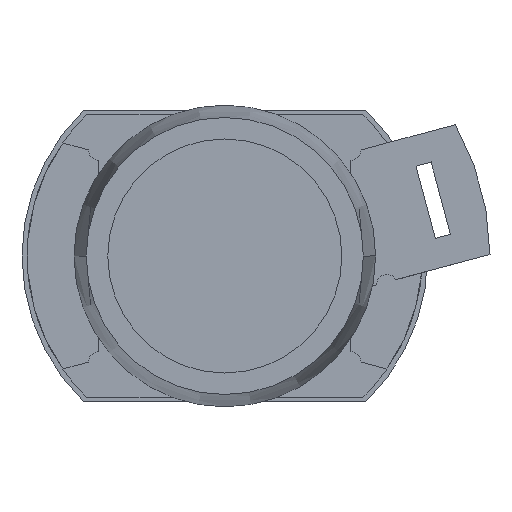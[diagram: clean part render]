
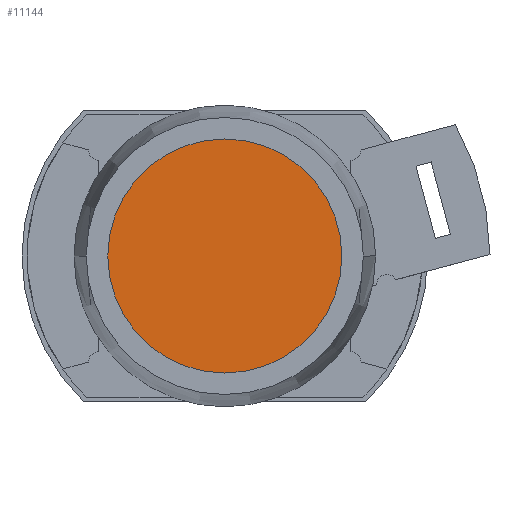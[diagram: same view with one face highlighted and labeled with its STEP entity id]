
A CAD part, left-side view. The second image highlights one B-rep face of the part: STEP entity #11144.
In plain terms, the highlighted planar face has unit normal (-1, 0, 0).
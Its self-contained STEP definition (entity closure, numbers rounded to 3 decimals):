
#835 = ORIENTED_EDGE ( 'NONE', *, *, #11881, .T. ) ;
#960 = ORIENTED_EDGE ( 'NONE', *, *, #1046, .T. ) ;
#1046 = EDGE_CURVE ( 'NONE', #11672, #8315, #3371, .T. ) ;
#3371 = CIRCLE ( 'NONE', #3372, 11.25 ) ;
#3372 = AXIS2_PLACEMENT_3D ( 'NONE', #3373, #3374, #3375 ) ;
#3373 = CARTESIAN_POINT ( 'NONE',  ( 1., 0., 0. ) ) ;
#3374 = DIRECTION ( 'NONE',  ( -1., 0., 0. ) ) ;
#3375 = DIRECTION ( 'NONE',  ( 0., 0., -1. ) ) ;
#4990 = CIRCLE ( 'NONE', #4991, 11.25 ) ;
#4991 = AXIS2_PLACEMENT_3D ( 'NONE', #4992, #4993, #4994 ) ;
#4992 = CARTESIAN_POINT ( 'NONE',  ( 1., 0., 0. ) ) ;
#4993 = DIRECTION ( 'NONE',  ( -1., 0., 0. ) ) ;
#4994 = DIRECTION ( 'NONE',  ( 0., 0., -1. ) ) ;
#7118 = EDGE_LOOP ( 'NONE', ( #835, #960 ) ) ;
#7618 = CARTESIAN_POINT ( 'NONE',  ( 1., 0., -11.25 ) ) ;
#8315 = VERTEX_POINT ( 'NONE', #7618 ) ;
#9076 = FACE_OUTER_BOUND ( 'NONE', #7118, .T. ) ;
#9077 = PLANE ( 'NONE',  #9078 ) ;
#9078 = AXIS2_PLACEMENT_3D ( 'NONE', #9083, #9084, #9085 ) ;
#9083 = CARTESIAN_POINT ( 'NONE',  ( 1., 5.625, 0. ) ) ;
#9084 = DIRECTION ( 'NONE',  ( -1., 0., 0. ) ) ;
#9085 = DIRECTION ( 'NONE',  ( 0., 0., 1. ) ) ;
#10168 = CARTESIAN_POINT ( 'NONE',  ( 1., 0., 11.25 ) ) ;
#11144 = ADVANCED_FACE ( 'NONE', ( #9076 ), #9077, .T. ) ;
#11672 = VERTEX_POINT ( 'NONE', #10168 ) ;
#11881 = EDGE_CURVE ( 'NONE', #8315, #11672, #4990, .T. ) ;
